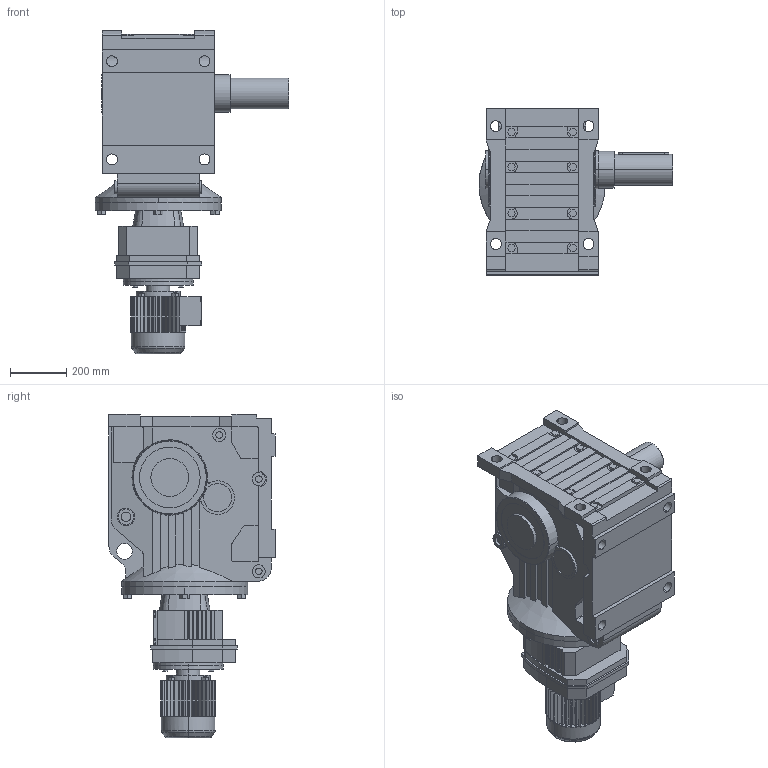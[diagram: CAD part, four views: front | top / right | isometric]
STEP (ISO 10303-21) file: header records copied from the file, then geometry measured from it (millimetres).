
FILE_DESCRIPTION(('Open CASCADE Model'),'2;1');
FILE_NAME('Open CASCADE Shape Model','2021-07-24T16:19:09',('Author'),( 'Open CASCADE'),'Open CASCADE STEP processor 6.3','Open CASCADE 6.3' ,'Unknown');
FILE_SCHEMA(('AUTOMOTIVE_DESIGN_CC2 { 1 2 10303 214 -1 1 5 4 }'));
Length unit declared in the file: millimetre
Products named in the file (5): 1_K127R87DT90-A; K37‵157_127.step; 萇儂_250-DT90-257-342-197-154.step; R_127_87.step; す瑩妗陑粣K_127.step
Assembly tree (4 placements, depth 2):
  1_K127R87DT90-A
    K37‵157_127.step
    萇儂_250-DT90-257-342-197-154.step
    R_127_87.step
    す瑩妗陑粣K_127.step
Bounding box: 691 x 592 x 1152 mm (x, y, z)
Volume: 132039838.6 mm3; surface area: 3573965.6 mm2
Topology: 4 solids, 4 shells, 1078 faces, 2861 edges, 1868 vertices
Faces by surface type: plane 770, cylinder 278, cone 22, torus 8
Entity records: 74281 total; most frequent: CARTESIAN_POINT 19498, DIRECTION 9522, ORIENTED_EDGE 5718, PCURVE 5718, DEFINITIONAL_REPRESENTATION 5718, LINE 5463, VECTOR 5463, EDGE_CURVE 2859
